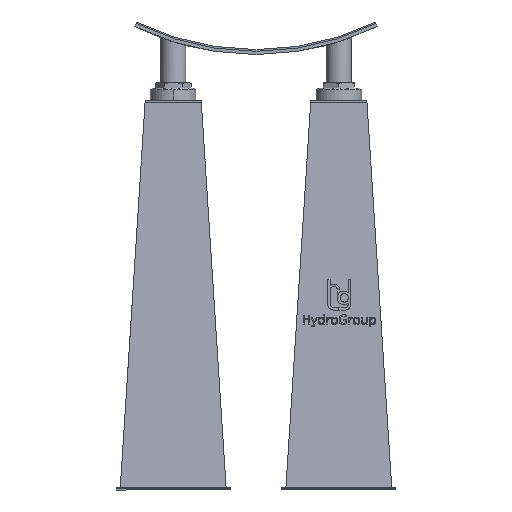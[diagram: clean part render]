
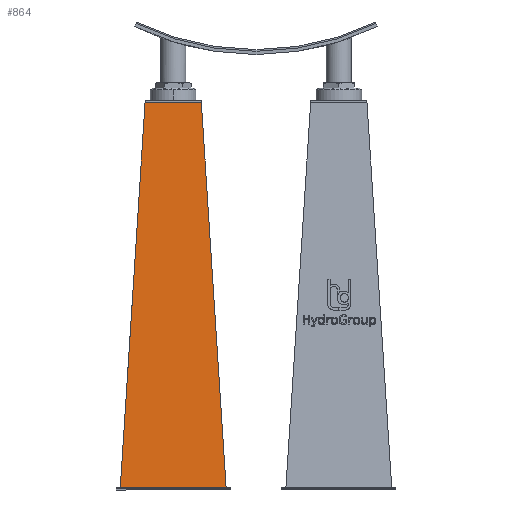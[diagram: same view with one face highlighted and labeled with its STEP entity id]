
A CAD part, front view. The second image highlights one B-rep face of the part: STEP entity #864.
In plain terms, the highlighted planar face has unit normal (0, -0.998, 0.064).
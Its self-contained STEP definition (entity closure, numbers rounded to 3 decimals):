
#864=ADVANCED_FACE('',(#1944),#1945,.F.);
#1944=FACE_OUTER_BOUND('',#3333,.T.);
#1945=PLANE('',#3334);
#3333=EDGE_LOOP('',(#5886,#5887,#5888,#5889));
#3334=AXIS2_PLACEMENT_3D('',#5890,#5891,#5892);
#5886=ORIENTED_EDGE('',*,*,#8901,.T.);
#5887=ORIENTED_EDGE('',*,*,#8917,.F.);
#5888=ORIENTED_EDGE('',*,*,#8927,.F.);
#5889=ORIENTED_EDGE('',*,*,#8655,.T.);
#5890=CARTESIAN_POINT('',(160.105,249.636,369.978));
#5891=DIRECTION('',(0.,0.998,-0.064));
#5892=DIRECTION('',(1.0,0.,0.));
#8655=EDGE_CURVE('',#10312,#10310,#10313,.F.);
#8901=EDGE_CURVE('',#10310,#10636,#10638,.T.);
#8917=EDGE_CURVE('',#10658,#10636,#10660,.T.);
#8927=EDGE_CURVE('',#10312,#10658,#10673,.T.);
#10310=VERTEX_POINT('',#12901);
#10312=VERTEX_POINT('',#12904);
#10313=LINE('',#12905,#12906);
#10636=VERTEX_POINT('',#13491);
#10638=LINE('',#13494,#13495);
#10658=VERTEX_POINT('',#13524);
#10660=LINE('',#13527,#13528);
#10673=LINE('',#13547,#13548);
#12901=CARTESIAN_POINT('',(-32.708,189.817,-559.215));
#12904=CARTESIAN_POINT('',(27.099,249.624,369.785));
#12905=CARTESIAN_POINT('',(27.391,249.916,374.319));
#12906=VECTOR('',#16644,1.);
#13491=CARTESIAN_POINT('',(222.918,189.817,-559.215));
#13494=CARTESIAN_POINT('',(127.605,189.817,-559.215));
#13495=VECTOR('',#16820,1.0);
#13524=CARTESIAN_POINT('',(163.111,249.624,369.785));
#13527=CARTESIAN_POINT('',(162.819,249.916,374.319));
#13528=VECTOR('',#16831,1.);
#13547=CARTESIAN_POINT('',(127.605,249.624,369.785));
#13548=VECTOR('',#16838,1.0);
#16644=DIRECTION('',(0.064,0.064,0.996));
#16820=DIRECTION('',(1.0,0.,0.));
#16831=DIRECTION('',(0.064,-0.064,-0.996));
#16838=DIRECTION('',(1.0,0.,0.));
